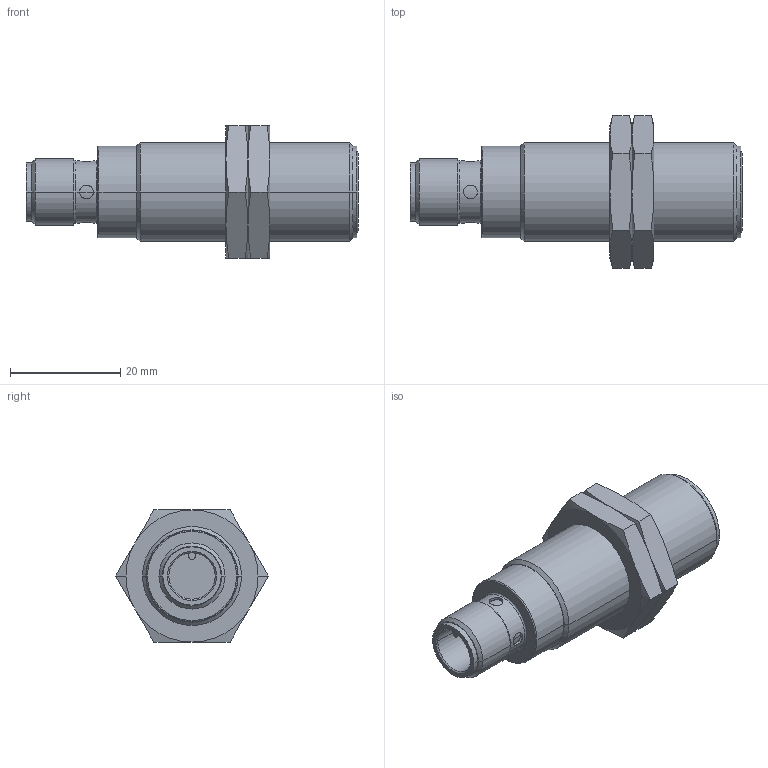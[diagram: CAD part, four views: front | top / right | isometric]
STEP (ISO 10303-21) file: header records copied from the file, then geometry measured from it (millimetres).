
FILE_DESCRIPTION( ( '' ), '1' );
FILE_NAME( '//partserver001.servicenet/client_exchange/iodir/jobs/output/wkb12435477_no0/STEP/ogs200_2_03.stp', '2008-10-08T11:24:00', ( '' ), ( '' ), ' ', ' ', ' ' );
FILE_SCHEMA( ( 'CONFIG_CONTROL_DESIGN' ) );
Length unit declared in the file: millimetre
Products named in the file (3): 1; 2; 3
Bounding box: 60.34 x 27.71 x 24 mm (x, y, z)
Volume: 14726.4 mm3; surface area: 5956.2 mm2
Topology: 3 solids, 3 shells, 119 faces, 256 edges, 152 vertices
Faces by surface type: cone 50, cylinder 35, plane 28, torus 6
Entity records: 3536 total; most frequent: CARTESIAN_POINT 906, DIRECTION 550, ORIENTED_EDGE 512, EDGE_CURVE 256, AXIS2_PLACEMENT_3D 236, VERTEX_POINT 152, EDGE_LOOP 132, ADVANCED_FACE 119
